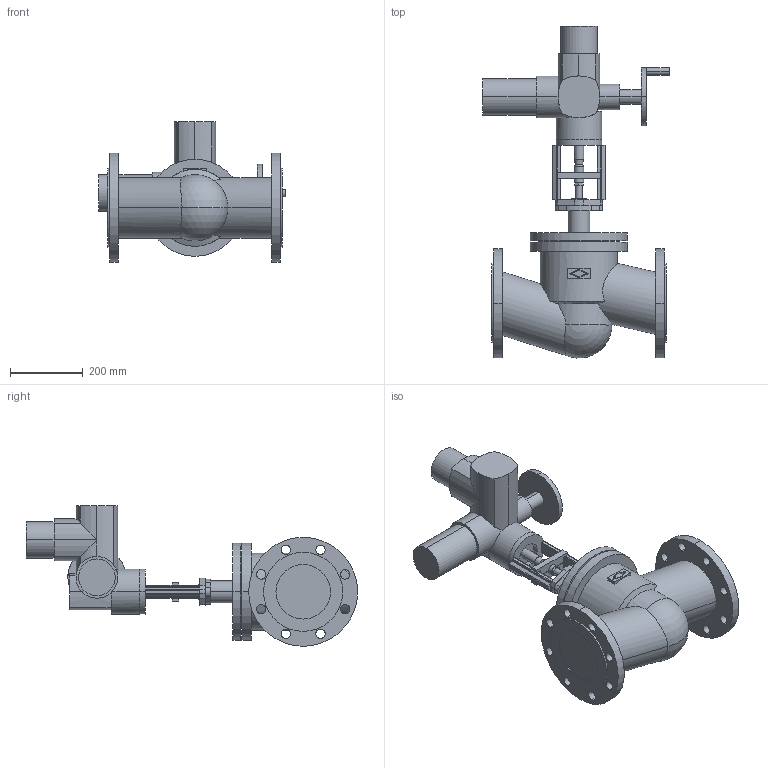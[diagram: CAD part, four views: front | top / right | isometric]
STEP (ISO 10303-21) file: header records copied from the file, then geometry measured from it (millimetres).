
FILE_DESCRIPTION(('OneSpaceDesigner STEP Export'),'2;1');
FILE_NAME('c000003107.stp','2007-01-09T11:43:11',(''),(''),'OneSpace Designer STEP processor for AP214 (Solid Model)','OneSpace Designer 14.00B 27-May-2006 (C) CoCreate Software GmbH','');
FILE_SCHEMA(('AUTOMOTIVE_DESIGN { 1 0 10303 214 1 1 1 1 }'));
Length unit declared in the file: millimetre
Products named in the file (3): 1; 2; 3
Bounding box: 514 x 913.77 x 387 mm (x, y, z)
Volume: 29030725.1 mm3; surface area: 1254563.5 mm2
Topology: 3 solids, 3 shells, 280 faces, 713 edges, 452 vertices
Faces by surface type: cylinder 144, plane 128, cone 6, sphere 2
Entity records: 8293 total; most frequent: CARTESIAN_POINT 1924, ORIENTED_EDGE 1422, DIRECTION 1177, EDGE_CURVE 711, VERTEX_POINT 452, AXIS2_PLACEMENT_3D 402, VECTOR 373, LINE 373
